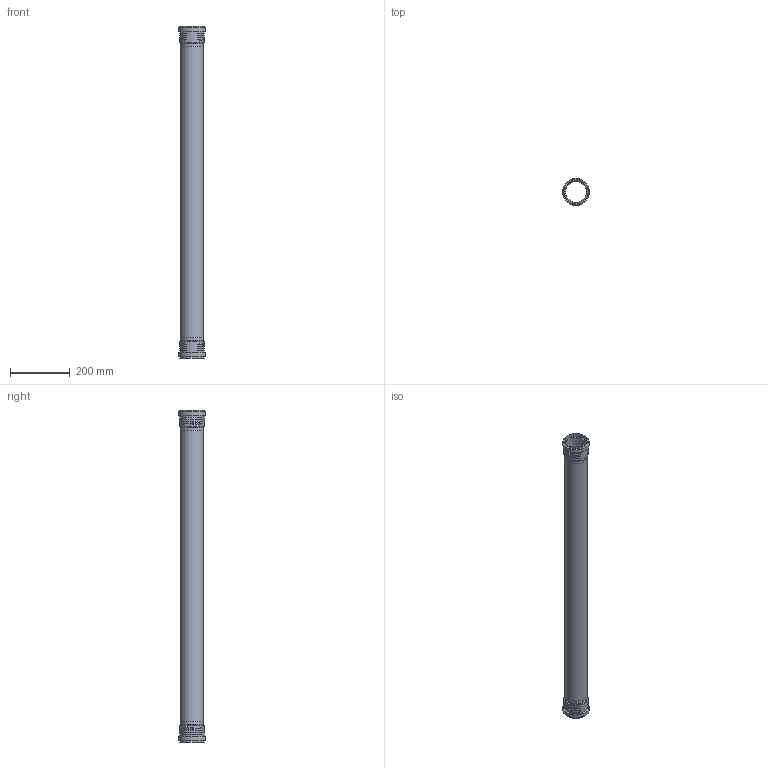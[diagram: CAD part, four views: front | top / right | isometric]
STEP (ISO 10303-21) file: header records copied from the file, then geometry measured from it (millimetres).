
FILE_DESCRIPTION(/* description */ (''),/* implementation_level */ '2;1');
FILE_NAME(/* name */ 'Z:\Geberit\Export\NewStep\Rohr2Muffen_Iassembly\stp\390311.stp',/* time_stamp */ '2014-04-03T17:49:42+02:00',/* author */ ('ML'),/* organization */ (''),/* preprocessor_version */ 'ST-DEVELOPER v15.2',/* originating_system */ 'Autodesk Inventor 2014',/* authorisation */ '');
FILE_SCHEMA (('AUTOMOTIVE_DESIGN { 1 0 10303 214 3 1 1 }'));
Length unit declared in the file: millimetre
Products named in the file (3): 861541; 861583ohne; 390311
Bounding box: 89.4 x 89.4 x 1111.4 mm (x, y, z)
Volume: 692575.4 mm3; surface area: 537261.7 mm2
Topology: 3 solids, 3 shells, 88 faces, 198 edges, 136 vertices
Faces by surface type: torus 48, cylinder 20, plane 18, cone 2
Full cylindrical faces by diameter (mm): 70 x3, 75.2 x3, 76 x4, 78.6 x2, 81.2 x4, 84.2 x2, 89.4 x2
Entity records: 1990 total; most frequent: CARTESIAN_POINT 960, DIRECTION 180, ORIENTED_EDGE 172, AXIS2_PLACEMENT_3D 90, EDGE_CURVE 86, EDGE_LOOP 76, VERTEX_POINT 70, B_SPLINE_CURVE_WITH_KNOTS 48
